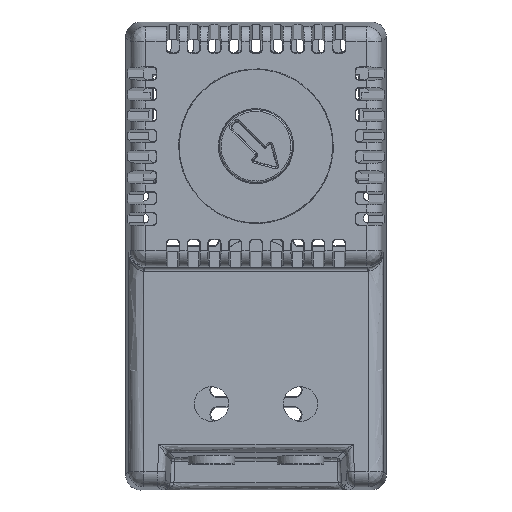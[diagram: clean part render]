
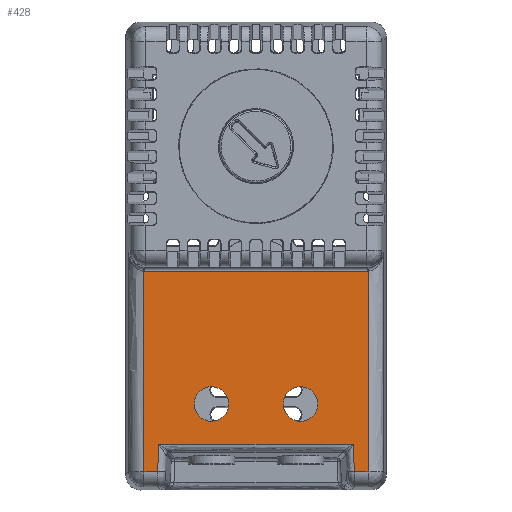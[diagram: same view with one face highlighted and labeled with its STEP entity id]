
A CAD part, top view. The second image highlights one B-rep face of the part: STEP entity #428.
In plain terms, the highlighted planar face has unit normal (0, 0, -1).
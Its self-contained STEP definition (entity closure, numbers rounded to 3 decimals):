
#66=FACE_BOUND('',#2413,.T.);
#67=FACE_BOUND('',#2414,.T.);
#428=ADVANCED_FACE('',(#1413,#66,#67),#18588,.T.);
#1413=FACE_OUTER_BOUND('',#2412,.T.);
#2412=EDGE_LOOP('',(#5351,#5352,#5353,#5354,#5355,#5356,#5357,#5358,#5359,
#5360));
#2413=EDGE_LOOP('',(#5361,#5362));
#2414=EDGE_LOOP('',(#5363,#5364));
#5351=ORIENTED_EDGE('',*,*,#10740,.F.);
#5352=ORIENTED_EDGE('',*,*,#10741,.F.);
#5353=ORIENTED_EDGE('',*,*,#10573,.F.);
#5354=ORIENTED_EDGE('',*,*,#10508,.F.);
#5355=ORIENTED_EDGE('',*,*,#11135,.T.);
#5356=ORIENTED_EDGE('',*,*,#10978,.T.);
#5357=ORIENTED_EDGE('',*,*,#10544,.F.);
#5358=ORIENTED_EDGE('',*,*,#11131,.T.);
#5359=ORIENTED_EDGE('',*,*,#10738,.F.);
#5360=ORIENTED_EDGE('',*,*,#10735,.F.);
#5361=ORIENTED_EDGE('',*,*,#10923,.F.);
#5362=ORIENTED_EDGE('',*,*,#10920,.F.);
#5363=ORIENTED_EDGE('',*,*,#10925,.F.);
#5364=ORIENTED_EDGE('',*,*,#10928,.F.);
#10508=EDGE_CURVE('',#16983,#16982,#13608,.T.);
#10544=EDGE_CURVE('',#17010,#17009,#13639,.T.);
#10573=EDGE_CURVE('',#16982,#17019,#13657,.T.);
#10735=EDGE_CURVE('',#17081,#17082,#15792,.T.);
#10738=EDGE_CURVE('',#17082,#17083,#13796,.T.);
#10740=EDGE_CURVE('',#17020,#17081,#13797,.T.);
#10741=EDGE_CURVE('',#17019,#17020,#13798,.T.);
#10920=EDGE_CURVE('',#17173,#17174,#15832,.T.);
#10923=EDGE_CURVE('',#17174,#17173,#15835,.T.);
#10925=EDGE_CURVE('',#17175,#17176,#15836,.T.);
#10928=EDGE_CURVE('',#17176,#17175,#15839,.T.);
#10978=EDGE_CURVE('',#17202,#17009,#13989,.T.);
#11131=EDGE_CURVE('',#17010,#17083,#15851,.T.);
#11135=EDGE_CURVE('',#16983,#17202,#14133,.T.);
#13608=B_SPLINE_CURVE_WITH_KNOTS('',1,(#28637,#28638),.UNSPECIFIED.,.F.,
 .F.,(2,2),(0.,25.292),.UNSPECIFIED.);
#13639=B_SPLINE_CURVE_WITH_KNOTS('',1,(#28714,#28715),.UNSPECIFIED.,.F.,
 .F.,(2,2),(0.,26.12),.UNSPECIFIED.);
#13657=B_SPLINE_CURVE_WITH_KNOTS('',1,(#28839,#28840),.UNSPECIFIED.,.F.,
 .F.,(2,2),(0.,3.546),.UNSPECIFIED.);
#13796=B_SPLINE_CURVE_WITH_KNOTS('',1,(#29271,#29272),.UNSPECIFIED.,.F.,
 .F.,(2,2),(0.,29.086),.UNSPECIFIED.);
#13797=B_SPLINE_CURVE_WITH_KNOTS('',1,(#29276,#29277),.UNSPECIFIED.,.F.,
 .F.,(2,2),(0.,26.12),.UNSPECIFIED.);
#13798=B_SPLINE_CURVE_WITH_KNOTS('',1,(#29278,#29279),.UNSPECIFIED.,.F.,
 .F.,(2,2),(0.,1.775),.UNSPECIFIED.);
#13989=B_SPLINE_CURVE_WITH_KNOTS('',1,(#29975,#29976),.UNSPECIFIED.,.F.,
 .F.,(2,2),(0.,1.775),.UNSPECIFIED.);
#14133=B_SPLINE_CURVE_WITH_KNOTS('',1,(#30399,#30400),.UNSPECIFIED.,.F.,
 .F.,(2,2),(-3.546,0.),.UNSPECIFIED.);
#15792=(
BOUNDED_CURVE()
B_SPLINE_CURVE(3,(#29262,#29263,#29264,#29265),.UNSPECIFIED.,.F.,.F.)
B_SPLINE_CURVE_WITH_KNOTS((4,4),(-2.382,-2.357),
 .UNSPECIFIED.)
CURVE()
GEOMETRIC_REPRESENTATION_ITEM()
RATIONAL_B_SPLINE_CURVE((1.,1.,1.,1.))
REPRESENTATION_ITEM('')
);
#15832=(
BOUNDED_CURVE()
B_SPLINE_CURVE(2,(#29806,#29807,#29808,#29809,#29810),.UNSPECIFIED.,.F.,
 .F.)
B_SPLINE_CURVE_WITH_KNOTS((3,2,3),(0.,4.5,9.),
 .UNSPECIFIED.)
CURVE()
GEOMETRIC_REPRESENTATION_ITEM()
RATIONAL_B_SPLINE_CURVE((1.,0.707,1.,0.707,1.))
REPRESENTATION_ITEM('')
);
#15835=(
BOUNDED_CURVE()
B_SPLINE_CURVE(2,(#29821,#29822,#29823,#29824,#29825),.UNSPECIFIED.,.F.,
 .F.)
B_SPLINE_CURVE_WITH_KNOTS((3,2,3),(0.,4.5,9.),
 .UNSPECIFIED.)
CURVE()
GEOMETRIC_REPRESENTATION_ITEM()
RATIONAL_B_SPLINE_CURVE((1.,0.707,1.,0.707,1.))
REPRESENTATION_ITEM('')
);
#15836=(
BOUNDED_CURVE()
B_SPLINE_CURVE(2,(#29828,#29829,#29830,#29831,#29832),.UNSPECIFIED.,.F.,
 .F.)
B_SPLINE_CURVE_WITH_KNOTS((3,2,3),(0.,4.5,9.),
 .UNSPECIFIED.)
CURVE()
GEOMETRIC_REPRESENTATION_ITEM()
RATIONAL_B_SPLINE_CURVE((1.,0.707,1.,0.707,1.))
REPRESENTATION_ITEM('')
);
#15839=(
BOUNDED_CURVE()
B_SPLINE_CURVE(2,(#29843,#29844,#29845,#29846,#29847),.UNSPECIFIED.,.F.,
 .F.)
B_SPLINE_CURVE_WITH_KNOTS((3,2,3),(0.,4.5,9.),
 .UNSPECIFIED.)
CURVE()
GEOMETRIC_REPRESENTATION_ITEM()
RATIONAL_B_SPLINE_CURVE((1.,0.707,1.,0.707,1.))
REPRESENTATION_ITEM('')
);
#15851=(
BOUNDED_CURVE()
B_SPLINE_CURVE(3,(#30385,#30386,#30387,#30388),.UNSPECIFIED.,.F.,.F.)
B_SPLINE_CURVE_WITH_KNOTS((4,4),(3.901,3.927),
 .UNSPECIFIED.)
CURVE()
GEOMETRIC_REPRESENTATION_ITEM()
RATIONAL_B_SPLINE_CURVE((1.,1.,1.,1.))
REPRESENTATION_ITEM('')
);
#16982=VERTEX_POINT('',#25838);
#16983=VERTEX_POINT('',#25839);
#17009=VERTEX_POINT('',#25865);
#17010=VERTEX_POINT('',#25866);
#17019=VERTEX_POINT('',#25875);
#17020=VERTEX_POINT('',#25876);
#17081=VERTEX_POINT('',#25937);
#17082=VERTEX_POINT('',#25938);
#17083=VERTEX_POINT('',#25939);
#17173=VERTEX_POINT('',#26029);
#17174=VERTEX_POINT('',#26030);
#17175=VERTEX_POINT('',#26031);
#17176=VERTEX_POINT('',#26032);
#17202=VERTEX_POINT('',#26058);
#18588=PLANE('',#19589);
#19589=AXIS2_PLACEMENT_3D('',#23597,#20184,$);
#20184=DIRECTION('',(0.,0.,-1.));
#23597=CARTESIAN_POINT('',(79.605,-72.439,16.5));
#25838=CARTESIAN_POINT('',(74.712,-66.273,16.5));
#25839=CARTESIAN_POINT('',(49.419,-66.273,16.5));
#25865=CARTESIAN_POINT('',(47.459,-69.815,16.5));
#25866=CARTESIAN_POINT('',(47.459,-43.694,16.5));
#25875=CARTESIAN_POINT('',(74.898,-69.815,16.5));
#25876=CARTESIAN_POINT('',(76.672,-69.815,16.5));
#25937=CARTESIAN_POINT('',(76.672,-43.694,16.5));
#25938=CARTESIAN_POINT('',(76.608,-43.695,16.5));
#25939=CARTESIAN_POINT('',(47.523,-43.695,16.5));
#26029=CARTESIAN_POINT('',(65.616,-61.018,16.5));
#26030=CARTESIAN_POINT('',(70.116,-61.018,16.5));
#26031=CARTESIAN_POINT('',(54.016,-61.018,16.5));
#26032=CARTESIAN_POINT('',(58.516,-61.018,16.5));
#26058=CARTESIAN_POINT('',(49.234,-69.815,16.5));
#28637=CARTESIAN_POINT('',(49.419,-66.273,16.5));
#28638=CARTESIAN_POINT('',(74.712,-66.273,16.5));
#28714=CARTESIAN_POINT('',(47.459,-43.694,16.5));
#28715=CARTESIAN_POINT('',(47.459,-69.815,16.5));
#28839=CARTESIAN_POINT('',(74.712,-66.273,16.5));
#28840=CARTESIAN_POINT('',(74.898,-69.815,16.5));
#29262=CARTESIAN_POINT('',(76.672,-43.694,16.5));
#29263=CARTESIAN_POINT('',(76.651,-43.695,16.5));
#29264=CARTESIAN_POINT('',(76.63,-43.695,16.5));
#29265=CARTESIAN_POINT('',(76.608,-43.695,16.5));
#29271=CARTESIAN_POINT('',(76.608,-43.695,16.5));
#29272=CARTESIAN_POINT('',(47.523,-43.695,16.5));
#29276=CARTESIAN_POINT('',(76.672,-69.815,16.5));
#29277=CARTESIAN_POINT('',(76.672,-43.694,16.5));
#29278=CARTESIAN_POINT('',(74.898,-69.815,16.5));
#29279=CARTESIAN_POINT('',(76.672,-69.815,16.5));
#29806=CARTESIAN_POINT('',(65.616,-61.018,16.5));
#29807=CARTESIAN_POINT('',(65.616,-58.768,16.5));
#29808=CARTESIAN_POINT('',(67.866,-58.768,16.5));
#29809=CARTESIAN_POINT('',(70.116,-58.768,16.5));
#29810=CARTESIAN_POINT('',(70.116,-61.018,16.5));
#29821=CARTESIAN_POINT('',(70.116,-61.018,16.5));
#29822=CARTESIAN_POINT('',(70.116,-63.268,16.5));
#29823=CARTESIAN_POINT('',(67.866,-63.268,16.5));
#29824=CARTESIAN_POINT('',(65.616,-63.268,16.5));
#29825=CARTESIAN_POINT('',(65.616,-61.018,16.5));
#29828=CARTESIAN_POINT('',(54.016,-61.018,16.5));
#29829=CARTESIAN_POINT('',(54.016,-58.768,16.5));
#29830=CARTESIAN_POINT('',(56.266,-58.768,16.5));
#29831=CARTESIAN_POINT('',(58.516,-58.768,16.5));
#29832=CARTESIAN_POINT('',(58.516,-61.018,16.5));
#29843=CARTESIAN_POINT('',(58.516,-61.018,16.5));
#29844=CARTESIAN_POINT('',(58.516,-63.268,16.5));
#29845=CARTESIAN_POINT('',(56.266,-63.268,16.5));
#29846=CARTESIAN_POINT('',(54.016,-63.268,16.5));
#29847=CARTESIAN_POINT('',(54.016,-61.018,16.5));
#29975=CARTESIAN_POINT('',(49.234,-69.815,16.5));
#29976=CARTESIAN_POINT('',(47.459,-69.815,16.5));
#30385=CARTESIAN_POINT('',(47.459,-43.694,16.5));
#30386=CARTESIAN_POINT('',(47.48,-43.695,16.5));
#30387=CARTESIAN_POINT('',(47.502,-43.695,16.5));
#30388=CARTESIAN_POINT('',(47.523,-43.695,16.5));
#30399=CARTESIAN_POINT('',(49.419,-66.273,16.5));
#30400=CARTESIAN_POINT('',(49.234,-69.815,16.5));
